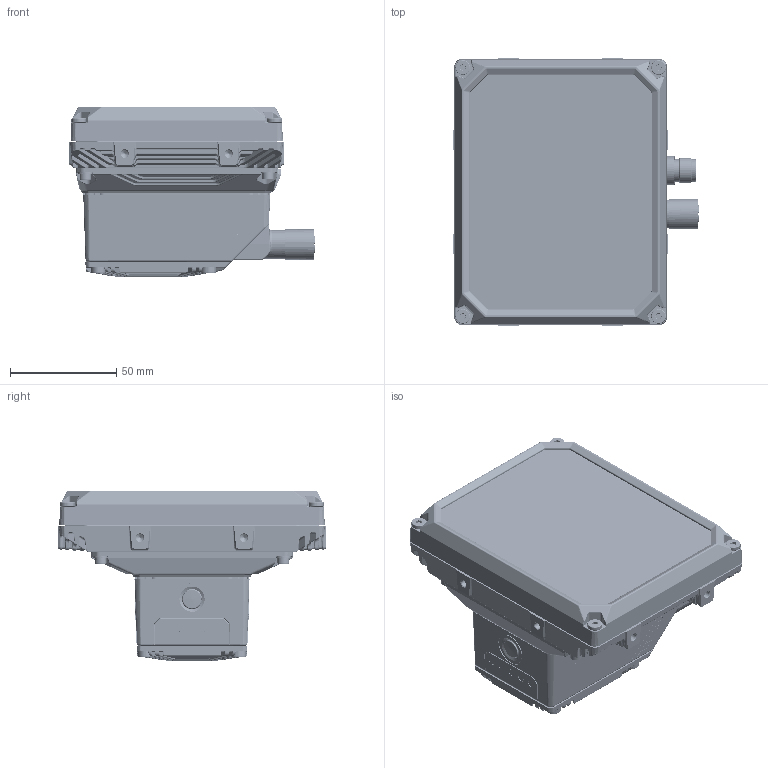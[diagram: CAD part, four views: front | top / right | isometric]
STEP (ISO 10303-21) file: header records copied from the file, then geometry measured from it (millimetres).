
FILE_DESCRIPTION(/* description */ (''),/* implementation_level */ '2;1');
FILE_NAME(/* name */ 'AP036145_00-P2X S-Mount 36 led landscape 0.stp',/* time_stamp */ '2022-05-23T09:52:56+02:00',/* author */ (''),/* organization */ (''),/* preprocessor_version */ 'ST-DEVELOPER v16.7',/* originating_system */ 'SIEMENS PLM Software NX 1946',/* authorisation */ '');
FILE_SCHEMA (('AUTOMOTIVE_DESIGN { 1 0 10303 214 3 1 1 1 }'));
Products named in the file (1): FGut78A0455Dbq0n
Bounding box: 115.45 x 126 x 79.8 mm (x, y, z)
Volume: 550931.5 mm3; surface area: 82383.3 mm2
Topology: 1 solids, 25 shells, 5854 faces, 13803 edges, 8003 vertices
Faces by surface type: cylinder 1833, plane 1685, bspline 1671, cone 212, torus 199, sphere 158, extrusion 96
Full cylindrical faces by diameter (mm): 0.6 x7, 3 x4, 3.2 x9, 3.3 x17, 3.5 x5, 3.6 x4, 5.5 x4, 6.2 x4, 6.9 x4, 7 x7, 9.5 x2, 10.5 x1, 10.7 x1, 10.8 x1, 11.15 x1, 11.85 x1, 12.2 x1, 13.5 x2, 14 x1, 15 x1, 16 x1
Entity records: 224815 total; most frequent: CARTESIAN_POINT 77468, ORIENTED_EDGE 26646, DIRECTION 24488, EDGE_CURVE 13323, AXIS2_PLACEMENT_3D 9671, VERTEX_POINT 7931, EDGE_LOOP 6272, ADVANCED_FACE 5853
